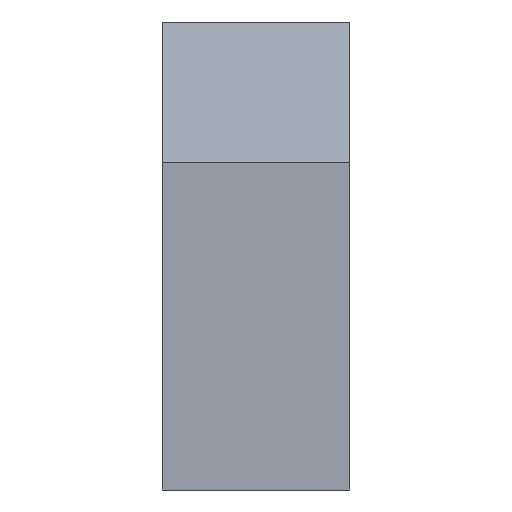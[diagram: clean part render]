
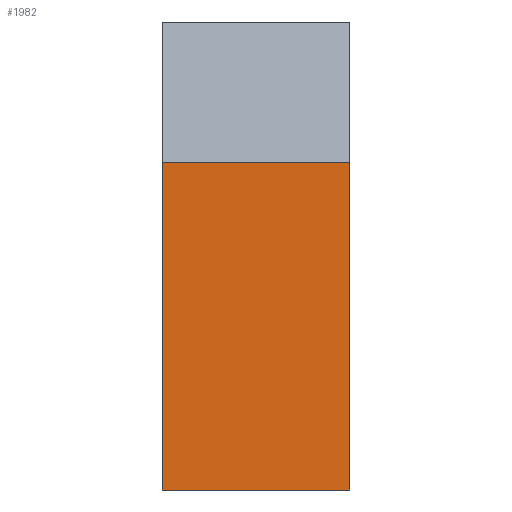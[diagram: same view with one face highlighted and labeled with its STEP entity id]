
A CAD part, front view. The second image highlights one B-rep face of the part: STEP entity #1982.
In plain terms, the highlighted planar face has unit normal (0, -1, 0).
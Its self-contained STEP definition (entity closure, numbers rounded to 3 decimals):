
#1982 = ADVANCED_FACE( '', ( #3987 ), #3988, .F. );
#3987 = FACE_OUTER_BOUND( '', #6002, .T. );
#3988 = PLANE( '', #6003 );
#6002 = EDGE_LOOP( '', ( #12551, #12552, #12553, #12554 ) );
#6003 = AXIS2_PLACEMENT_3D( '', #12555, #12556, #12557 );
#12551 = ORIENTED_EDGE( '', *, *, #13389, .T. );
#12552 = ORIENTED_EDGE( '', *, *, #14822, .F. );
#12553 = ORIENTED_EDGE( '', *, *, #13574, .F. );
#12554 = ORIENTED_EDGE( '', *, *, #14004, .F. );
#12555 = CARTESIAN_POINT( '', ( -6., -1005., 4. ) );
#12556 = DIRECTION( '', ( 0., 1., 0. ) );
#12557 = DIRECTION( '', ( 0., 0., 1. ) );
#13389 = EDGE_CURVE( '', #16548, #16553, #16555, .T. );
#13574 = EDGE_CURVE( '', #16863, #16865, #16866, .T. );
#14004 = EDGE_CURVE( '', #16548, #16863, #17548, .T. );
#14822 = EDGE_CURVE( '', #16865, #16553, #18807, .T. );
#16548 = VERTEX_POINT( '', #21066 );
#16553 = VERTEX_POINT( '', #21073 );
#16555 = LINE( '', #21076, #21077 );
#16863 = VERTEX_POINT( '', #21525 );
#16865 = VERTEX_POINT( '', #21528 );
#16866 = LINE( '', #21529, #21530 );
#17548 = LINE( '', #22533, #22534 );
#18807 = LINE( '', #24573, #24574 );
#21066 = CARTESIAN_POINT( '', ( 6., -1005., -5. ) );
#21073 = CARTESIAN_POINT( '', ( -6., -1005., -5. ) );
#21076 = CARTESIAN_POINT( '', ( -6., -1005., -5. ) );
#21077 = VECTOR( '', #25853, 1000. );
#21525 = CARTESIAN_POINT( '', ( 6., -1005., -26. ) );
#21528 = CARTESIAN_POINT( '', ( -6., -1005., -26. ) );
#21529 = CARTESIAN_POINT( '', ( 6., -1005., -26. ) );
#21530 = VECTOR( '', #26001, 1000. );
#22533 = CARTESIAN_POINT( '', ( 6., -1005., 4. ) );
#22534 = VECTOR( '', #26347, 1000. );
#24573 = CARTESIAN_POINT( '', ( -6., -1005., -26. ) );
#24574 = VECTOR( '', #27146, 1000. );
#25853 = DIRECTION( '', ( -1., 0., 0. ) );
#26001 = DIRECTION( '', ( -1., 0., 0. ) );
#26347 = DIRECTION( '', ( 0., 0., -1. ) );
#27146 = DIRECTION( '', ( 0., 0., 1. ) );
